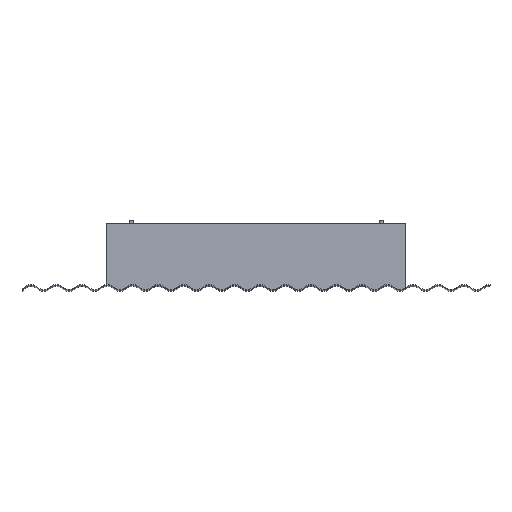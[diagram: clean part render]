
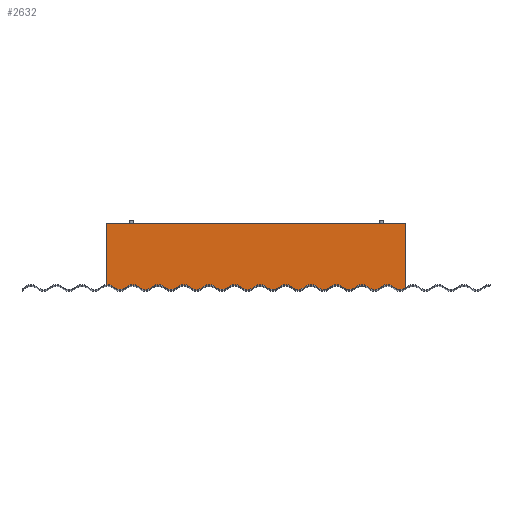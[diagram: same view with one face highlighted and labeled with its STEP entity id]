
A CAD part, top view. The second image highlights one B-rep face of the part: STEP entity #2632.
In plain terms, the highlighted planar face has unit normal (0, 0, 1).
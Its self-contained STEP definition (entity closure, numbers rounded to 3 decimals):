
#83=LINE('',#4345,#259);
#87=LINE('',#4402,#263);
#89=LINE('',#4407,#265);
#259=VECTOR('',#3404,10.);
#263=VECTOR('',#3460,10.);
#265=VECTOR('',#3466,10.);
#390=PLANE('',#2871);
#449=FACE_OUTER_BOUND('',#598,.T.);
#598=EDGE_LOOP('',(#1881,#1882,#1883,#1884,#1885,#1886,#1887,#1888,#1889,
#1890,#1891,#1892,#1893,#1894,#1895,#1896,#1897,#1898,#1899,#1900,#1901,
#1902,#1903,#1904,#1905,#1906,#1907));
#790=CIRCLE('',#2872,26.);
#791=CIRCLE('',#2873,30.);
#792=CIRCLE('',#2874,26.);
#793=CIRCLE('',#2875,30.);
#794=CIRCLE('',#2876,26.);
#795=CIRCLE('',#2877,30.);
#796=CIRCLE('',#2878,26.);
#797=CIRCLE('',#2879,30.);
#798=CIRCLE('',#2880,26.);
#799=CIRCLE('',#2881,30.);
#800=CIRCLE('',#2882,26.);
#801=CIRCLE('',#2883,30.);
#802=CIRCLE('',#2884,26.);
#803=CIRCLE('',#2885,30.);
#804=CIRCLE('',#2886,26.);
#805=CIRCLE('',#2887,30.);
#806=CIRCLE('',#2888,26.);
#807=CIRCLE('',#2889,30.);
#808=CIRCLE('',#2890,26.);
#809=CIRCLE('',#2891,30.);
#810=CIRCLE('',#2892,26.);
#811=CIRCLE('',#2893,30.);
#812=CIRCLE('',#2894,26.);
#813=CIRCLE('',#2895,30.);
#1039=VERTEX_POINT('',#4339);
#1041=VERTEX_POINT('',#4343);
#1067=VERTEX_POINT('',#4399);
#1068=VERTEX_POINT('',#4401);
#1069=VERTEX_POINT('',#4405);
#1070=VERTEX_POINT('',#4408);
#1071=VERTEX_POINT('',#4410);
#1072=VERTEX_POINT('',#4412);
#1073=VERTEX_POINT('',#4414);
#1074=VERTEX_POINT('',#4416);
#1075=VERTEX_POINT('',#4418);
#1076=VERTEX_POINT('',#4420);
#1077=VERTEX_POINT('',#4422);
#1078=VERTEX_POINT('',#4424);
#1079=VERTEX_POINT('',#4426);
#1080=VERTEX_POINT('',#4428);
#1081=VERTEX_POINT('',#4430);
#1082=VERTEX_POINT('',#4432);
#1083=VERTEX_POINT('',#4434);
#1084=VERTEX_POINT('',#4436);
#1085=VERTEX_POINT('',#4438);
#1086=VERTEX_POINT('',#4440);
#1087=VERTEX_POINT('',#4442);
#1088=VERTEX_POINT('',#4444);
#1089=VERTEX_POINT('',#4446);
#1090=VERTEX_POINT('',#4448);
#1091=VERTEX_POINT('',#4450);
#1354=EDGE_CURVE('',#1041,#1039,#83,.T.);
#1382=EDGE_CURVE('',#1068,#1067,#87,.T.);
#1384=EDGE_CURVE('',#1039,#1069,#790,.T.);
#1385=EDGE_CURVE('',#1041,#1068,#89,.T.);
#1386=EDGE_CURVE('',#1070,#1067,#791,.T.);
#1387=EDGE_CURVE('',#1071,#1070,#792,.T.);
#1388=EDGE_CURVE('',#1072,#1071,#793,.T.);
#1389=EDGE_CURVE('',#1073,#1072,#794,.T.);
#1390=EDGE_CURVE('',#1074,#1073,#795,.T.);
#1391=EDGE_CURVE('',#1075,#1074,#796,.T.);
#1392=EDGE_CURVE('',#1076,#1075,#797,.T.);
#1393=EDGE_CURVE('',#1077,#1076,#798,.T.);
#1394=EDGE_CURVE('',#1078,#1077,#799,.T.);
#1395=EDGE_CURVE('',#1079,#1078,#800,.T.);
#1396=EDGE_CURVE('',#1080,#1079,#801,.T.);
#1397=EDGE_CURVE('',#1081,#1080,#802,.T.);
#1398=EDGE_CURVE('',#1082,#1081,#803,.T.);
#1399=EDGE_CURVE('',#1083,#1082,#804,.T.);
#1400=EDGE_CURVE('',#1084,#1083,#805,.T.);
#1401=EDGE_CURVE('',#1085,#1084,#806,.T.);
#1402=EDGE_CURVE('',#1086,#1085,#807,.T.);
#1403=EDGE_CURVE('',#1087,#1086,#808,.T.);
#1404=EDGE_CURVE('',#1088,#1087,#809,.T.);
#1405=EDGE_CURVE('',#1089,#1088,#810,.T.);
#1406=EDGE_CURVE('',#1090,#1089,#811,.T.);
#1407=EDGE_CURVE('',#1091,#1090,#812,.T.);
#1408=EDGE_CURVE('',#1069,#1091,#813,.T.);
#1881=ORIENTED_EDGE('',*,*,#1384,.F.);
#1882=ORIENTED_EDGE('',*,*,#1354,.F.);
#1883=ORIENTED_EDGE('',*,*,#1385,.T.);
#1884=ORIENTED_EDGE('',*,*,#1382,.T.);
#1885=ORIENTED_EDGE('',*,*,#1386,.F.);
#1886=ORIENTED_EDGE('',*,*,#1387,.F.);
#1887=ORIENTED_EDGE('',*,*,#1388,.F.);
#1888=ORIENTED_EDGE('',*,*,#1389,.F.);
#1889=ORIENTED_EDGE('',*,*,#1390,.F.);
#1890=ORIENTED_EDGE('',*,*,#1391,.F.);
#1891=ORIENTED_EDGE('',*,*,#1392,.F.);
#1892=ORIENTED_EDGE('',*,*,#1393,.F.);
#1893=ORIENTED_EDGE('',*,*,#1394,.F.);
#1894=ORIENTED_EDGE('',*,*,#1395,.F.);
#1895=ORIENTED_EDGE('',*,*,#1396,.F.);
#1896=ORIENTED_EDGE('',*,*,#1397,.F.);
#1897=ORIENTED_EDGE('',*,*,#1398,.F.);
#1898=ORIENTED_EDGE('',*,*,#1399,.F.);
#1899=ORIENTED_EDGE('',*,*,#1400,.F.);
#1900=ORIENTED_EDGE('',*,*,#1401,.F.);
#1901=ORIENTED_EDGE('',*,*,#1402,.F.);
#1902=ORIENTED_EDGE('',*,*,#1403,.F.);
#1903=ORIENTED_EDGE('',*,*,#1404,.F.);
#1904=ORIENTED_EDGE('',*,*,#1405,.F.);
#1905=ORIENTED_EDGE('',*,*,#1406,.F.);
#1906=ORIENTED_EDGE('',*,*,#1407,.F.);
#1907=ORIENTED_EDGE('',*,*,#1408,.F.);
#2632=ADVANCED_FACE('',(#449),#390,.T.);
#2871=AXIS2_PLACEMENT_3D('',#4404,#3462,#3463);
#2872=AXIS2_PLACEMENT_3D('',#4406,#3464,#3465);
#2873=AXIS2_PLACEMENT_3D('',#4409,#3467,#3468);
#2874=AXIS2_PLACEMENT_3D('',#4411,#3469,#3470);
#2875=AXIS2_PLACEMENT_3D('',#4413,#3471,#3472);
#2876=AXIS2_PLACEMENT_3D('',#4415,#3473,#3474);
#2877=AXIS2_PLACEMENT_3D('',#4417,#3475,#3476);
#2878=AXIS2_PLACEMENT_3D('',#4419,#3477,#3478);
#2879=AXIS2_PLACEMENT_3D('',#4421,#3479,#3480);
#2880=AXIS2_PLACEMENT_3D('',#4423,#3481,#3482);
#2881=AXIS2_PLACEMENT_3D('',#4425,#3483,#3484);
#2882=AXIS2_PLACEMENT_3D('',#4427,#3485,#3486);
#2883=AXIS2_PLACEMENT_3D('',#4429,#3487,#3488);
#2884=AXIS2_PLACEMENT_3D('',#4431,#3489,#3490);
#2885=AXIS2_PLACEMENT_3D('',#4433,#3491,#3492);
#2886=AXIS2_PLACEMENT_3D('',#4435,#3493,#3494);
#2887=AXIS2_PLACEMENT_3D('',#4437,#3495,#3496);
#2888=AXIS2_PLACEMENT_3D('',#4439,#3497,#3498);
#2889=AXIS2_PLACEMENT_3D('',#4441,#3499,#3500);
#2890=AXIS2_PLACEMENT_3D('',#4443,#3501,#3502);
#2891=AXIS2_PLACEMENT_3D('',#4445,#3503,#3504);
#2892=AXIS2_PLACEMENT_3D('',#4447,#3505,#3506);
#2893=AXIS2_PLACEMENT_3D('',#4449,#3507,#3508);
#2894=AXIS2_PLACEMENT_3D('',#4451,#3509,#3510);
#2895=AXIS2_PLACEMENT_3D('',#4452,#3511,#3512);
#3404=DIRECTION('',(0.,-1.,0.));
#3460=DIRECTION('',(0.,-1.,0.));
#3462=DIRECTION('center_axis',(0.,0.,1.));
#3463=DIRECTION('ref_axis',(-1.,0.,0.));
#3464=DIRECTION('center_axis',(0.,0.,-1.));
#3465=DIRECTION('ref_axis',(-0.681,-0.732,0.));
#3466=DIRECTION('',(-1.,0.,0.));
#3467=DIRECTION('center_axis',(0.,0.,1.));
#3468=DIRECTION('ref_axis',(-0.681,-0.732,0.));
#3469=DIRECTION('center_axis',(0.,0.,-1.));
#3470=DIRECTION('ref_axis',(-0.681,-0.732,0.));
#3471=DIRECTION('center_axis',(0.,0.,1.));
#3472=DIRECTION('ref_axis',(-0.681,-0.732,0.));
#3473=DIRECTION('center_axis',(0.,0.,-1.));
#3474=DIRECTION('ref_axis',(-0.681,-0.732,0.));
#3475=DIRECTION('center_axis',(0.,0.,1.));
#3476=DIRECTION('ref_axis',(-0.681,-0.732,0.));
#3477=DIRECTION('center_axis',(0.,0.,-1.));
#3478=DIRECTION('ref_axis',(-0.681,-0.732,0.));
#3479=DIRECTION('center_axis',(0.,0.,1.));
#3480=DIRECTION('ref_axis',(-0.681,-0.732,0.));
#3481=DIRECTION('center_axis',(0.,0.,-1.));
#3482=DIRECTION('ref_axis',(-0.681,-0.732,0.));
#3483=DIRECTION('center_axis',(0.,0.,1.));
#3484=DIRECTION('ref_axis',(-0.681,-0.732,0.));
#3485=DIRECTION('center_axis',(0.,0.,-1.));
#3486=DIRECTION('ref_axis',(-0.681,-0.732,0.));
#3487=DIRECTION('center_axis',(0.,0.,1.));
#3488=DIRECTION('ref_axis',(-0.681,-0.732,0.));
#3489=DIRECTION('center_axis',(0.,0.,-1.));
#3490=DIRECTION('ref_axis',(-0.681,-0.732,0.));
#3491=DIRECTION('center_axis',(0.,0.,1.));
#3492=DIRECTION('ref_axis',(-0.681,-0.732,0.));
#3493=DIRECTION('center_axis',(0.,0.,-1.));
#3494=DIRECTION('ref_axis',(-0.681,-0.732,0.));
#3495=DIRECTION('center_axis',(0.,0.,1.));
#3496=DIRECTION('ref_axis',(-0.681,-0.732,0.));
#3497=DIRECTION('center_axis',(0.,0.,-1.));
#3498=DIRECTION('ref_axis',(-0.681,-0.732,0.));
#3499=DIRECTION('center_axis',(0.,0.,1.));
#3500=DIRECTION('ref_axis',(-0.681,-0.732,0.));
#3501=DIRECTION('center_axis',(0.,0.,-1.));
#3502=DIRECTION('ref_axis',(-0.681,-0.732,0.));
#3503=DIRECTION('center_axis',(0.,0.,1.));
#3504=DIRECTION('ref_axis',(-0.681,-0.732,0.));
#3505=DIRECTION('center_axis',(0.,0.,-1.));
#3506=DIRECTION('ref_axis',(0.,-1.,0.));
#3507=DIRECTION('center_axis',(0.,0.,1.));
#3508=DIRECTION('ref_axis',(-0.681,-0.732,0.));
#3509=DIRECTION('center_axis',(0.,0.,-1.));
#3510=DIRECTION('ref_axis',(0.,-1.,0.));
#3511=DIRECTION('center_axis',(0.,0.,1.));
#3512=DIRECTION('ref_axis',(-0.681,-0.732,0.));
#4339=CARTESIAN_POINT('',(447.5,7.916,447.5));
#4343=CARTESIAN_POINT('',(447.5,200.,447.5));
#4345=CARTESIAN_POINT('',(447.5,200.,447.5));
#4399=CARTESIAN_POINT('',(-447.5,16.977,447.5));
#4401=CARTESIAN_POINT('',(-447.5,200.,447.5));
#4402=CARTESIAN_POINT('',(-447.5,200.,447.5));
#4404=CARTESIAN_POINT('Origin',(447.5,200.,447.5));
#4405=CARTESIAN_POINT('',(413.279,8.964,447.5));
#4406=CARTESIAN_POINT('Origin',(430.989,28.,447.5));
#4407=CARTESIAN_POINT('',(447.5,200.,447.5));
#4408=CARTESIAN_POINT('',(-425.899,8.964,447.5));
#4409=CARTESIAN_POINT('Origin',(-446.334,-13.,447.5));
#4410=CARTESIAN_POINT('',(-390.48,8.964,447.5));
#4411=CARTESIAN_POINT('Origin',(-408.19,28.,447.5));
#4412=CARTESIAN_POINT('',(-349.611,8.964,447.5));
#4413=CARTESIAN_POINT('Origin',(-370.045,-13.,447.5));
#4414=CARTESIAN_POINT('',(-314.191,8.964,447.5));
#4415=CARTESIAN_POINT('Origin',(-331.901,28.,447.5));
#4416=CARTESIAN_POINT('',(-273.322,8.964,447.5));
#4417=CARTESIAN_POINT('Origin',(-293.756,-13.,447.5));
#4418=CARTESIAN_POINT('',(-237.902,8.964,447.5));
#4419=CARTESIAN_POINT('Origin',(-255.612,28.,447.5));
#4420=CARTESIAN_POINT('',(-197.033,8.964,447.5));
#4421=CARTESIAN_POINT('Origin',(-217.467,-13.,447.5));
#4422=CARTESIAN_POINT('',(-161.613,8.964,447.5));
#4423=CARTESIAN_POINT('Origin',(-179.323,28.,447.5));
#4424=CARTESIAN_POINT('',(-120.744,8.964,447.5));
#4425=CARTESIAN_POINT('Origin',(-141.178,-13.,447.5));
#4426=CARTESIAN_POINT('',(-85.324,8.964,447.5));
#4427=CARTESIAN_POINT('Origin',(-103.034,28.,447.5));
#4428=CARTESIAN_POINT('',(-44.455,8.964,447.5));
#4429=CARTESIAN_POINT('Origin',(-64.889,-13.,447.5));
#4430=CARTESIAN_POINT('',(-9.035,8.964,447.5));
#4431=CARTESIAN_POINT('Origin',(-26.745,28.,447.5));
#4432=CARTESIAN_POINT('',(31.834,8.964,447.5));
#4433=CARTESIAN_POINT('Origin',(11.4,-13.,447.5));
#4434=CARTESIAN_POINT('',(67.254,8.964,447.5));
#4435=CARTESIAN_POINT('Origin',(49.544,28.,447.5));
#4436=CARTESIAN_POINT('',(108.123,8.964,447.5));
#4437=CARTESIAN_POINT('Origin',(87.688,-13.,447.5));
#4438=CARTESIAN_POINT('',(143.543,8.964,447.5));
#4439=CARTESIAN_POINT('Origin',(125.833,28.,447.5));
#4440=CARTESIAN_POINT('',(184.412,8.964,447.5));
#4441=CARTESIAN_POINT('Origin',(163.977,-13.,447.5));
#4442=CARTESIAN_POINT('',(219.832,8.964,447.5));
#4443=CARTESIAN_POINT('Origin',(202.122,28.,447.5));
#4444=CARTESIAN_POINT('',(260.701,8.964,447.5));
#4445=CARTESIAN_POINT('Origin',(240.266,-13.,447.5));
#4446=CARTESIAN_POINT('',(296.121,8.964,447.5));
#4447=CARTESIAN_POINT('Origin',(278.411,28.,447.5));
#4448=CARTESIAN_POINT('',(336.99,8.964,447.5));
#4449=CARTESIAN_POINT('Origin',(316.555,-13.,447.5));
#4450=CARTESIAN_POINT('',(372.41,8.964,447.5));
#4451=CARTESIAN_POINT('Origin',(354.7,28.,447.5));
#4452=CARTESIAN_POINT('Origin',(392.844,-13.,447.5));
